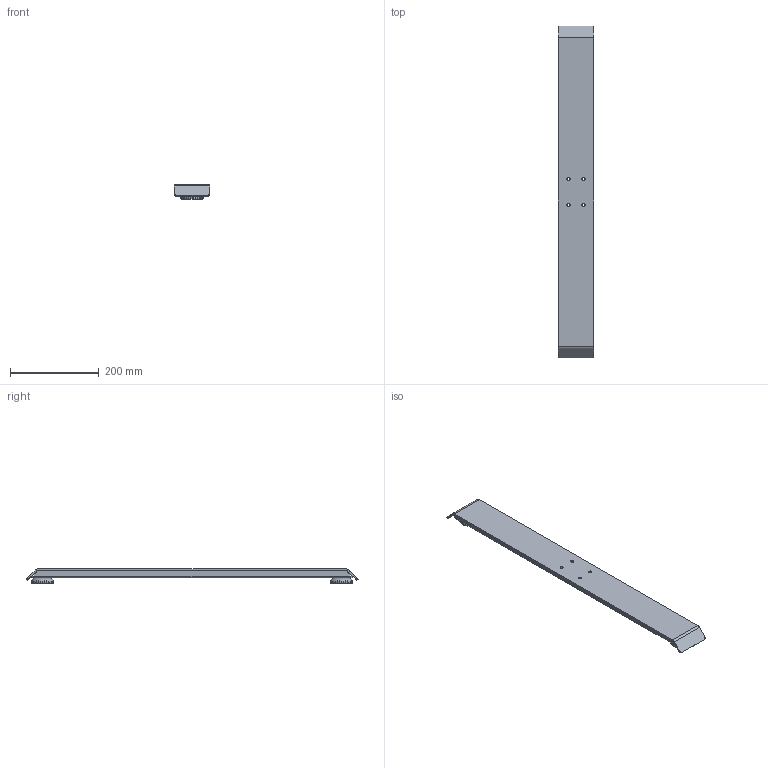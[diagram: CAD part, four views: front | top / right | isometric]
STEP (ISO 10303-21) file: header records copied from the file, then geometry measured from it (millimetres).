
FILE_DESCRIPTION(/* description */ ('Unknown'),/* implementation_level */ '2;1');
FILE_NAME(/* name */ '127.00821_00',/* time_stamp */ '2025-11-05T14:15:36+01:00',/* author */ ('Unknown'),/* organization */ ('Unknown'),/* preprocessor_version */ 'ST-DEVELOPER v20',/* originating_system */ 'Solid Edge',/* authorisation */ 'Unknown');
FILE_SCHEMA (('AUTOMOTIVE_DESIGN {1 0 10303 214 3 1 1}'));
Length unit declared in the file: millimetre
Products named in the file (4): 127.00821; EA2 Tischfuss unten; EA2 Tischfuss oben; Regulierfuss
Assembly tree (4 placements, depth 2):
  127.00821
    EA2 Tischfuss unten
    EA2 Tischfuss oben
    Regulierfuss  x2
Bounding box: 80 x 749.98 x 32 mm (x, y, z)
Volume: 536492.2 mm3; surface area: 274643.4 mm2
Topology: 4 solids, 4 shells, 266 faces, 584 edges, 336 vertices
Faces by surface type: cylinder 108, cone 88, plane 46, torus 24
Entity records: 4879 total; most frequent: DIRECTION 920, CARTESIAN_POINT 792, ORIENTED_EDGE 776, EDGE_CURVE 388, AXIS2_PLACEMENT_3D 360, VERTEX_POINT 232, LINE 200, VECTOR 200
